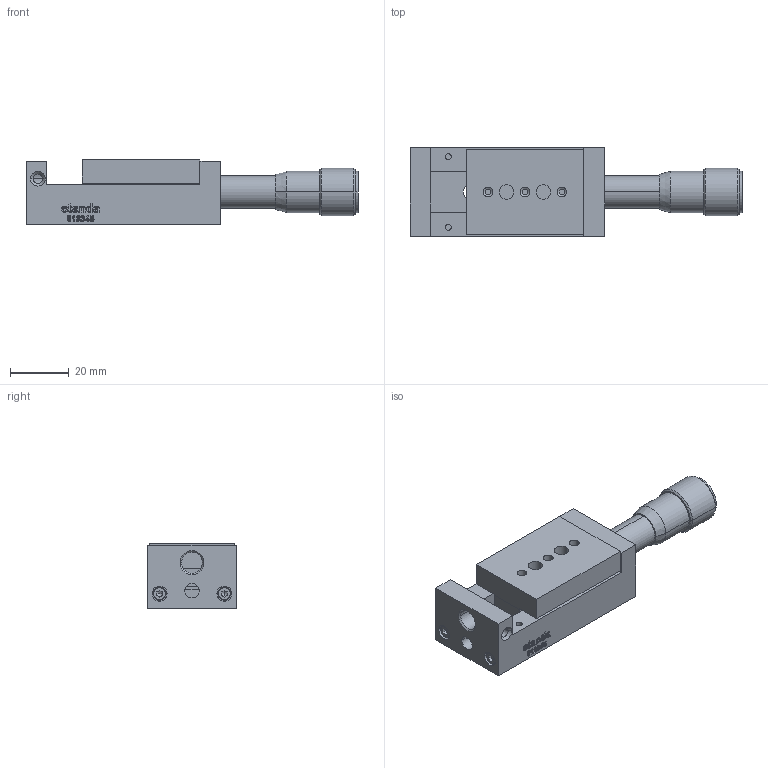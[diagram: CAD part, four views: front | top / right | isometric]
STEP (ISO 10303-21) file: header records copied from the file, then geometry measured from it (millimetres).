
FILE_DESCRIPTION (( 'STEP AP203' ), '1' );
FILE_NAME ('7T173-10.STEP', '2008-09-28T02:49:09', ( 'Darius' ), ( '' ), 'SwSTEP 2.0', 'SolidWorks 2003240', '' );
FILE_SCHEMA (( 'CONFIG_CONTROL_DESIGN' ));
Length unit declared in the file: millimetre
Products named in the file (1): 7T173-10
Bounding box: 112.62 x 30 x 22 mm (x, y, z)
Volume: 40405.2 mm3; surface area: 19749.9 mm2
Topology: 1 solids, 17 shells, 814 faces, 2043 edges, 1324 vertices
Faces by surface type: plane 327, bspline 215, cylinder 192, cone 80
Entity records: 28562 total; most frequent: CARTESIAN_POINT 10275, ORIENTED_EDGE 4030, DIRECTION 3201, EDGE_CURVE 2015, VERTEX_POINT 1324, AXIS2_PLACEMENT_3D 1090, VECTOR 1021, LINE 1021
